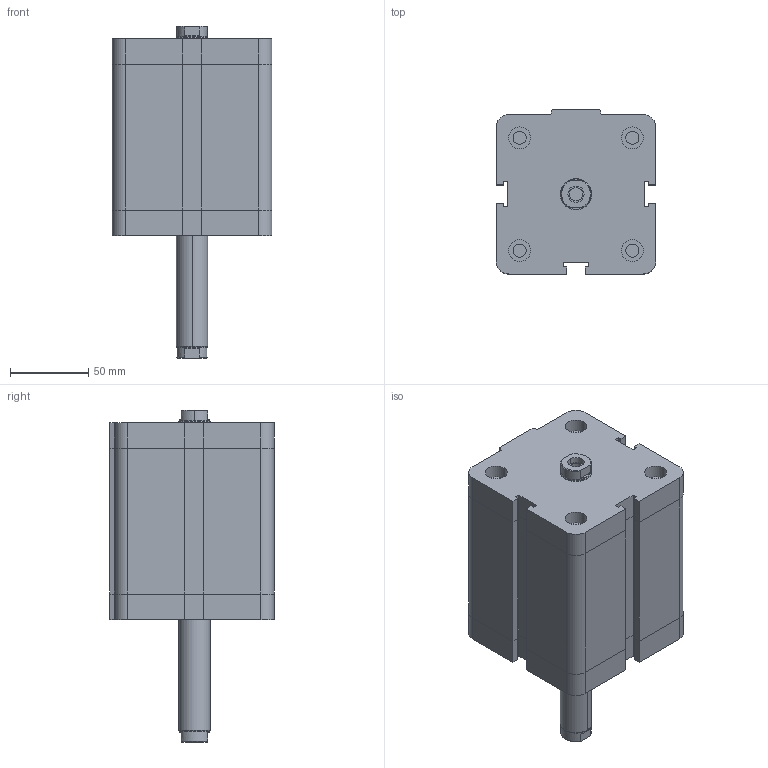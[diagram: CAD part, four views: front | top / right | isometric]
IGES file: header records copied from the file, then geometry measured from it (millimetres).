
Global section: file name: No Iges File Name specified; native system: Autodesk Inventor 2009; preprocessor: AutoDesk Inventor Iges Exporter R2009; author: maffial1; date: 20090420.200437; units: millimetre
Bounding box: 102 x 105 x 212 mm (x, y, z)
Volume: 1282702.4 mm3; surface area: 107873.3 mm2
Topology: 2 solids, 2 shells, 202 faces, 450 edges, 274 vertices
Faces by surface type: plane 114, bspline 42, revolution 20, cylinder 18, cone 8
